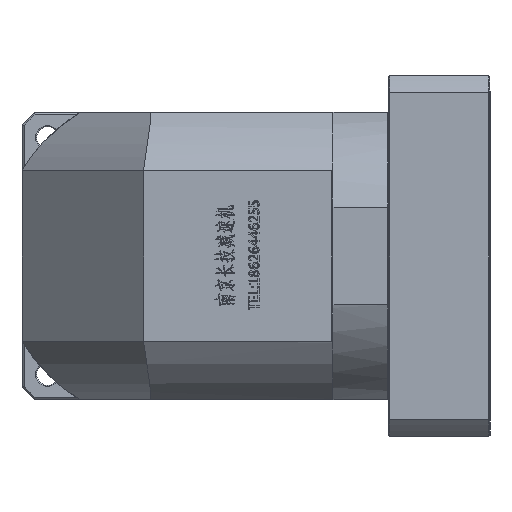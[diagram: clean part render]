
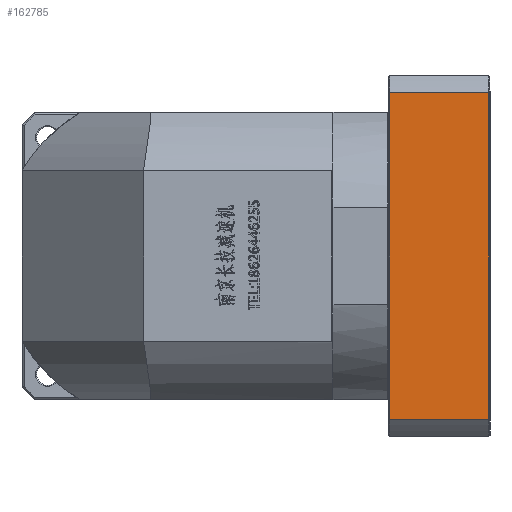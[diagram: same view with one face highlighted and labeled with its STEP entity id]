
A CAD part, left-side view. The second image highlights one B-rep face of the part: STEP entity #162785.
In plain terms, the highlighted planar face has unit normal (-1, 0, 0).
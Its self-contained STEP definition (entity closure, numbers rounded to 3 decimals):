
#671 = EDGE_CURVE ( 'NONE', #56404, #50009, #129047, .T. ) ;
#4404 = ORIENTED_EDGE ( 'NONE', *, *, #80882, .F. ) ;
#5523 = ORIENTED_EDGE ( 'NONE', *, *, #23761, .F. ) ;
#7090 = VECTOR ( 'NONE', #90047, 1000. ) ;
#21915 = CARTESIAN_POINT ( 'NONE',  ( -128.29, -150.808, 164.255 ) ) ;
#23761 = EDGE_CURVE ( 'NONE', #50009, #87599, #38325, .T. ) ;
#24542 = VECTOR ( 'NONE', #72198, 1000. ) ;
#24906 = DIRECTION ( 'NONE',  ( 0., 0., 1. ) ) ;
#35144 = EDGE_CURVE ( 'NONE', #87599, #99898, #173899, .T. ) ;
#38325 = LINE ( 'NONE', #165222, #44704 ) ;
#40102 = CARTESIAN_POINT ( 'NONE',  ( -128.29, -199.808, 164.255 ) ) ;
#44704 = VECTOR ( 'NONE', #57137, 1000. ) ;
#45529 = CARTESIAN_POINT ( 'NONE',  ( -128.29, -200.308, 155.747 ) ) ;
#50009 = VERTEX_POINT ( 'NONE', #128397 ) ;
#56404 = VERTEX_POINT ( 'NONE', #149327 ) ;
#57137 = DIRECTION ( 'NONE',  ( 0., 0., -1. ) ) ;
#57582 = CARTESIAN_POINT ( 'NONE',  ( -128.29, 192.497, 164.255 ) ) ;
#72198 = DIRECTION ( 'NONE',  ( 0., 1., 0. ) ) ;
#72482 = LINE ( 'NONE', #107770, #95645 ) ;
#80882 = EDGE_CURVE ( 'NONE', #99898, #56404, #72482, .T. ) ;
#87149 = CARTESIAN_POINT ( 'NONE',  ( -128.29, 192.497, 325.24 ) ) ;
#87599 = VERTEX_POINT ( 'NONE', #40102 ) ;
#90047 = DIRECTION ( 'NONE',  ( 0., -1., 0. ) ) ;
#95645 = VECTOR ( 'NONE', #24906, 1000. ) ;
#97064 = ORIENTED_EDGE ( 'NONE', *, *, #35144, .F. ) ;
#99898 = VERTEX_POINT ( 'NONE', #21915 ) ;
#103299 = FACE_OUTER_BOUND ( 'NONE', #147752, .T. ) ;
#107770 = CARTESIAN_POINT ( 'NONE',  ( -128.29, -150.808, 155.747 ) ) ;
#128397 = CARTESIAN_POINT ( 'NONE',  ( -128.29, -199.808, 325.24 ) ) ;
#129047 = LINE ( 'NONE', #87149, #7090 ) ;
#130110 = ORIENTED_EDGE ( 'NONE', *, *, #671, .F. ) ;
#139060 = AXIS2_PLACEMENT_3D ( 'NONE', #45529, #140182, #151983 ) ;
#140182 = DIRECTION ( 'NONE',  ( 1., 0., 0. ) ) ;
#147752 = EDGE_LOOP ( 'NONE', ( #130110, #4404, #97064, #5523 ) ) ;
#149327 = CARTESIAN_POINT ( 'NONE',  ( -128.29, -150.808, 325.24 ) ) ;
#151983 = DIRECTION ( 'NONE',  ( 0., 1., 0. ) ) ;
#153136 = PLANE ( 'NONE',  #139060 ) ;
#162785 = ADVANCED_FACE ( 'NONE', ( #103299 ), #153136, .F. ) ;
#165222 = CARTESIAN_POINT ( 'NONE',  ( -128.29, -199.808, 173.747 ) ) ;
#173899 = LINE ( 'NONE', #57582, #24542 ) ;
